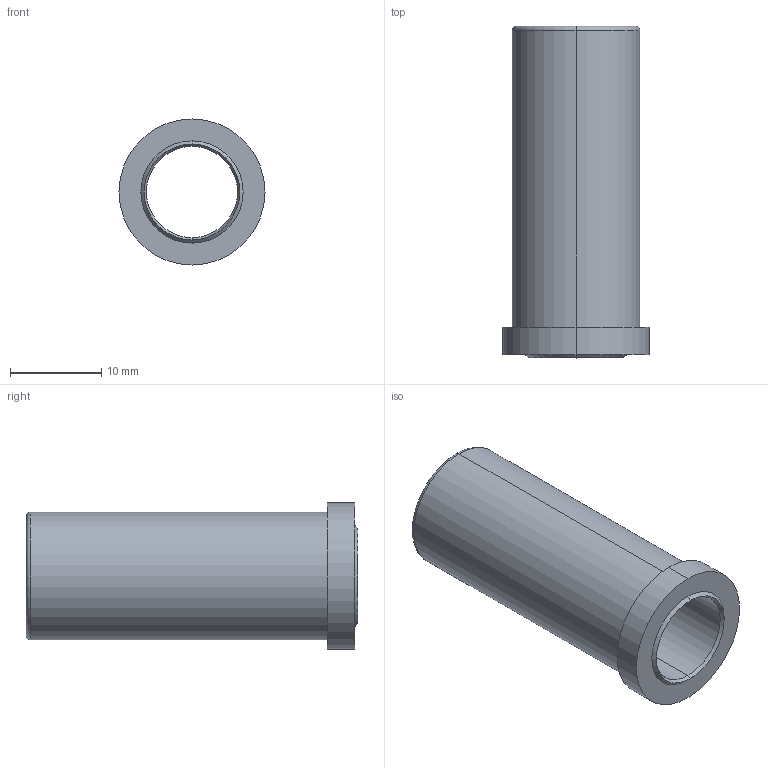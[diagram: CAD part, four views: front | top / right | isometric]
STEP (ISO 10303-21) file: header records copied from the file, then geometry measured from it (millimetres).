
FILE_DESCRIPTION (( 'STEP AP214' ), '1' );
FILE_NAME ('BR11W 9 x 36.STEP', '2019-12-09T17:25:52', ( 'August' ), ( '' ), 'SwSTEP 2.0', 'SolidWorks 2018', '' );
FILE_SCHEMA (( 'AUTOMOTIVE_DESIGN' ));
Length unit declared in the file: millimetre
Products named in the file (1): BR11W 9 x 36
Bounding box: 16 x 36.36 x 16 mm (x, y, z)
Volume: 2852.9 mm3; surface area: 2971.1 mm2
Topology: 1 solids, 1 shells, 17 faces, 34 edges, 20 vertices
Faces by surface type: cone 6, cylinder 6, plane 3, torus 2
Entity records: 484 total; most frequent: DIRECTION 92, CARTESIAN_POINT 72, ORIENTED_EDGE 68, AXIS2_PLACEMENT_3D 40, EDGE_CURVE 34, CIRCLE 22, EDGE_LOOP 20, VERTEX_POINT 20
